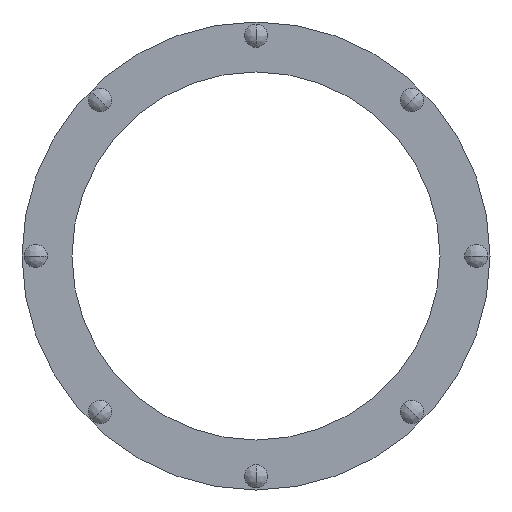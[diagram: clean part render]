
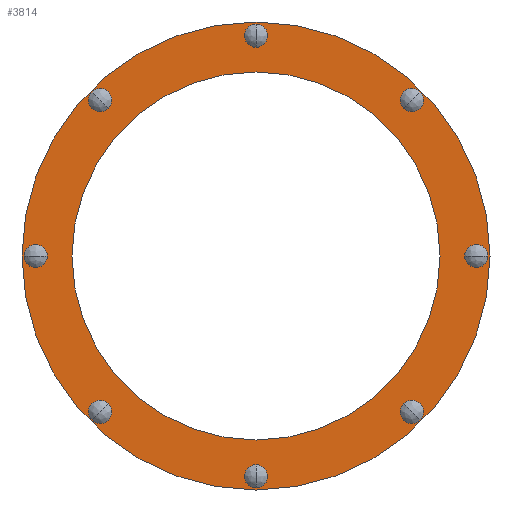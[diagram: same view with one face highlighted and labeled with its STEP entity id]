
A CAD part, front view. The second image highlights one B-rep face of the part: STEP entity #3814.
In plain terms, the highlighted planar face has unit normal (0, -1, 0).
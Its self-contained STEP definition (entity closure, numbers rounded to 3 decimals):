
#1329=CARTESIAN_POINT('',(0.,-151.,0.));
#1330=DIRECTION('',(0.,-1.,0.));
#1331=DIRECTION('',(-1.,0.,0.));
#1332=AXIS2_PLACEMENT_3D('',#1329,#1330,#1331);
#1338=CARTESIAN_POINT('',(0.,-151.,0.));
#1339=DIRECTION('',(0.,1.,0.));
#1340=DIRECTION('',(-1.,0.,0.));
#1341=AXIS2_PLACEMENT_3D('',#1338,#1339,#1340);
#1347=CARTESIAN_POINT('',(0.,-151.,0.));
#1348=DIRECTION('',(0.,-1.,0.));
#1349=DIRECTION('',(-1.,0.,0.));
#1350=AXIS2_PLACEMENT_3D('',#1347,#1348,#1349);
#1352=CARTESIAN_POINT('',(0.,-151.,0.));
#1353=DIRECTION('',(0.,1.,0.));
#1354=DIRECTION('',(-1.,0.,0.));
#1355=AXIS2_PLACEMENT_3D('',#1352,#1353,#1354);
#1357=CARTESIAN_POINT('',(-242.5,-151.,0.));
#1358=DIRECTION('',(0.,1.,0.));
#1359=DIRECTION('',(-1.,0.,0.));
#1360=AXIS2_PLACEMENT_3D('',#1357,#1358,#1359);
#1362=CARTESIAN_POINT('',(-242.5,-151.,0.));
#1363=DIRECTION('',(0.,1.,0.));
#1364=DIRECTION('',(1.,0.,0.));
#1365=AXIS2_PLACEMENT_3D('',#1362,#1363,#1364);
#1367=CARTESIAN_POINT('',(-171.473,-151.,-171.473));
#1368=DIRECTION('',(0.,1.,0.));
#1369=DIRECTION('',(-0.707,0.,-0.707));
#1370=AXIS2_PLACEMENT_3D('',#1367,#1368,#1369);
#1372=CARTESIAN_POINT('',(-171.473,-151.,-171.473));
#1373=DIRECTION('',(0.,1.,0.));
#1374=DIRECTION('',(0.707,0.,0.707));
#1375=AXIS2_PLACEMENT_3D('',#1372,#1373,#1374);
#1377=CARTESIAN_POINT('',(0.,-151.,-242.5));
#1378=DIRECTION('',(0.,1.,0.));
#1379=DIRECTION('',(0.,0.,-1.));
#1380=AXIS2_PLACEMENT_3D('',#1377,#1378,#1379);
#1382=CARTESIAN_POINT('',(0.,-151.,-242.5));
#1383=DIRECTION('',(0.,1.,0.));
#1384=DIRECTION('',(0.,0.,1.));
#1385=AXIS2_PLACEMENT_3D('',#1382,#1383,#1384);
#1387=CARTESIAN_POINT('',(171.473,-151.,-171.473));
#1388=DIRECTION('',(0.,1.,0.));
#1389=DIRECTION('',(0.707,0.,-0.707));
#1390=AXIS2_PLACEMENT_3D('',#1387,#1388,#1389);
#1392=CARTESIAN_POINT('',(171.473,-151.,-171.473));
#1393=DIRECTION('',(0.,1.,0.));
#1394=DIRECTION('',(-0.707,0.,0.707));
#1395=AXIS2_PLACEMENT_3D('',#1392,#1393,#1394);
#1397=CARTESIAN_POINT('',(242.5,-151.,0.));
#1398=DIRECTION('',(0.,1.,0.));
#1399=DIRECTION('',(1.,0.,0.));
#1400=AXIS2_PLACEMENT_3D('',#1397,#1398,#1399);
#1402=CARTESIAN_POINT('',(242.5,-151.,0.));
#1403=DIRECTION('',(0.,1.,0.));
#1404=DIRECTION('',(-1.,0.,0.));
#1405=AXIS2_PLACEMENT_3D('',#1402,#1403,#1404);
#1407=CARTESIAN_POINT('',(171.473,-151.,171.473));
#1408=DIRECTION('',(0.,1.,0.));
#1409=DIRECTION('',(0.707,0.,0.707));
#1410=AXIS2_PLACEMENT_3D('',#1407,#1408,#1409);
#1412=CARTESIAN_POINT('',(171.473,-151.,171.473));
#1413=DIRECTION('',(0.,1.,0.));
#1414=DIRECTION('',(-0.707,0.,-0.707));
#1415=AXIS2_PLACEMENT_3D('',#1412,#1413,#1414);
#1417=CARTESIAN_POINT('',(0.,-151.,242.5));
#1418=DIRECTION('',(0.,1.,0.));
#1419=DIRECTION('',(0.,0.,1.));
#1420=AXIS2_PLACEMENT_3D('',#1417,#1418,#1419);
#1422=CARTESIAN_POINT('',(0.,-151.,242.5));
#1423=DIRECTION('',(0.,1.,0.));
#1424=DIRECTION('',(0.,0.,-1.));
#1425=AXIS2_PLACEMENT_3D('',#1422,#1423,#1424);
#1427=CARTESIAN_POINT('',(-171.473,-151.,171.473));
#1428=DIRECTION('',(0.,1.,0.));
#1429=DIRECTION('',(-0.707,0.,0.707));
#1430=AXIS2_PLACEMENT_3D('',#1427,#1428,#1429);
#1432=CARTESIAN_POINT('',(-171.473,-151.,171.473));
#1433=DIRECTION('',(0.,1.,0.));
#1434=DIRECTION('',(0.707,0.,-0.707));
#1435=AXIS2_PLACEMENT_3D('',#1432,#1433,#1434);
#2627=CARTESIAN_POINT('',(-257.5,-151.,0.));
#2629=VERTEX_POINT('',#2627);
#2630=CARTESIAN_POINT('',(-202.5,-151.,0.));
#2632=VERTEX_POINT('',#2630);
#2645=CARTESIAN_POINT('',(257.5,-151.,0.));
#2647=VERTEX_POINT('',#2645);
#2648=CARTESIAN_POINT('',(202.5,-151.,0.));
#2650=VERTEX_POINT('',#2648);
#2718=CARTESIAN_POINT('',(-255.25,-151.,0.));
#2719=VERTEX_POINT('',#2718);
#2720=CARTESIAN_POINT('',(-229.75,-151.,0.));
#2721=VERTEX_POINT('',#2720);
#2760=CARTESIAN_POINT('',(-180.489,-151.,-180.489));
#2761=VERTEX_POINT('',#2760);
#2762=CARTESIAN_POINT('',(-162.458,-151.,-162.458));
#2763=VERTEX_POINT('',#2762);
#2802=CARTESIAN_POINT('',(0.,-151.,-255.25));
#2803=VERTEX_POINT('',#2802);
#2804=CARTESIAN_POINT('',(0.,-151.,-229.75));
#2805=VERTEX_POINT('',#2804);
#2844=CARTESIAN_POINT('',(180.489,-151.,-180.489));
#2845=VERTEX_POINT('',#2844);
#2846=CARTESIAN_POINT('',(162.458,-151.,-162.458));
#2847=VERTEX_POINT('',#2846);
#2886=CARTESIAN_POINT('',(255.25,-151.,0.));
#2887=VERTEX_POINT('',#2886);
#2888=CARTESIAN_POINT('',(229.75,-151.,0.));
#2889=VERTEX_POINT('',#2888);
#2928=CARTESIAN_POINT('',(180.489,-151.,180.489));
#2929=VERTEX_POINT('',#2928);
#2930=CARTESIAN_POINT('',(162.458,-151.,162.458));
#2931=VERTEX_POINT('',#2930);
#2990=CARTESIAN_POINT('',(0.,-151.,255.25));
#2991=VERTEX_POINT('',#2990);
#2992=CARTESIAN_POINT('',(0.,-151.,229.75));
#2993=VERTEX_POINT('',#2992);
#3032=CARTESIAN_POINT('',(-180.489,-151.,180.489));
#3033=VERTEX_POINT('',#3032);
#3034=CARTESIAN_POINT('',(-162.458,-151.,162.458));
#3035=VERTEX_POINT('',#3034);
#3751=CARTESIAN_POINT('',(0.,-151.,0.));
#3752=DIRECTION('',(0.,-1.,0.));
#3753=DIRECTION('',(-1.,0.,0.));
#3754=AXIS2_PLACEMENT_3D('',#3751,#3752,#3753);
#3755=PLANE('',#3754);
#3757=ORIENTED_EDGE('',*,*,#3756,.F.);
#3759=ORIENTED_EDGE('',*,*,#3758,.T.);
#3760=EDGE_LOOP('',(#3757,#3759));
#3761=FACE_OUTER_BOUND('',#3760,.F.);
#3762=ORIENTED_EDGE('',*,*,#3744,.F.);
#3763=ORIENTED_EDGE('',*,*,#3733,.T.);
#3764=EDGE_LOOP('',(#3762,#3763));
#3765=FACE_BOUND('',#3764,.F.);
#3767=ORIENTED_EDGE('',*,*,#3766,.F.);
#3769=ORIENTED_EDGE('',*,*,#3768,.F.);
#3770=EDGE_LOOP('',(#3767,#3769));
#3771=FACE_BOUND('',#3770,.F.);
#3773=ORIENTED_EDGE('',*,*,#3772,.F.);
#3775=ORIENTED_EDGE('',*,*,#3774,.F.);
#3776=EDGE_LOOP('',(#3773,#3775));
#3777=FACE_BOUND('',#3776,.F.);
#3779=ORIENTED_EDGE('',*,*,#3778,.F.);
#3781=ORIENTED_EDGE('',*,*,#3780,.F.);
#3782=EDGE_LOOP('',(#3779,#3781));
#3783=FACE_BOUND('',#3782,.F.);
#3785=ORIENTED_EDGE('',*,*,#3784,.F.);
#3787=ORIENTED_EDGE('',*,*,#3786,.F.);
#3788=EDGE_LOOP('',(#3785,#3787));
#3789=FACE_BOUND('',#3788,.F.);
#3791=ORIENTED_EDGE('',*,*,#3790,.F.);
#3793=ORIENTED_EDGE('',*,*,#3792,.F.);
#3794=EDGE_LOOP('',(#3791,#3793));
#3795=FACE_BOUND('',#3794,.F.);
#3797=ORIENTED_EDGE('',*,*,#3796,.F.);
#3799=ORIENTED_EDGE('',*,*,#3798,.F.);
#3800=EDGE_LOOP('',(#3797,#3799));
#3801=FACE_BOUND('',#3800,.F.);
#3803=ORIENTED_EDGE('',*,*,#3802,.F.);
#3805=ORIENTED_EDGE('',*,*,#3804,.F.);
#3806=EDGE_LOOP('',(#3803,#3805));
#3807=FACE_BOUND('',#3806,.F.);
#3809=ORIENTED_EDGE('',*,*,#3808,.F.);
#3811=ORIENTED_EDGE('',*,*,#3810,.F.);
#3812=EDGE_LOOP('',(#3809,#3811));
#3813=FACE_BOUND('',#3812,.F.);
#3814=ADVANCED_FACE('',(#3761,#3765,#3771,#3777,#3783,#3789,#3795,#3801,#3807,
#3813),#3755,.T.);
#1333=CIRCLE('',#1332,202.5);
#1342=CIRCLE('',#1341,202.5);
#1351=CIRCLE('',#1350,257.5);
#1356=CIRCLE('',#1355,257.5);
#1361=CIRCLE('',#1360,12.75);
#1366=CIRCLE('',#1365,12.75);
#1371=CIRCLE('',#1370,12.75);
#1376=CIRCLE('',#1375,12.75);
#1381=CIRCLE('',#1380,12.75);
#1386=CIRCLE('',#1385,12.75);
#1391=CIRCLE('',#1390,12.75);
#1396=CIRCLE('',#1395,12.75);
#1401=CIRCLE('',#1400,12.75);
#1406=CIRCLE('',#1405,12.75);
#1411=CIRCLE('',#1410,12.75);
#1416=CIRCLE('',#1415,12.75);
#1421=CIRCLE('',#1420,12.75);
#1426=CIRCLE('',#1425,12.75);
#1431=CIRCLE('',#1430,12.75);
#1436=CIRCLE('',#1435,12.75);
#3733=EDGE_CURVE('',#2632,#2650,#1333,.T.);
#3744=EDGE_CURVE('',#2632,#2650,#1342,.T.);
#3756=EDGE_CURVE('',#2629,#2647,#1351,.T.);
#3758=EDGE_CURVE('',#2629,#2647,#1356,.T.);
#3766=EDGE_CURVE('',#2719,#2721,#1361,.T.);
#3768=EDGE_CURVE('',#2721,#2719,#1366,.T.);
#3772=EDGE_CURVE('',#2761,#2763,#1371,.T.);
#3774=EDGE_CURVE('',#2763,#2761,#1376,.T.);
#3778=EDGE_CURVE('',#2803,#2805,#1381,.T.);
#3780=EDGE_CURVE('',#2805,#2803,#1386,.T.);
#3784=EDGE_CURVE('',#2845,#2847,#1391,.T.);
#3786=EDGE_CURVE('',#2847,#2845,#1396,.T.);
#3790=EDGE_CURVE('',#2887,#2889,#1401,.T.);
#3792=EDGE_CURVE('',#2889,#2887,#1406,.T.);
#3796=EDGE_CURVE('',#2929,#2931,#1411,.T.);
#3798=EDGE_CURVE('',#2931,#2929,#1416,.T.);
#3802=EDGE_CURVE('',#2991,#2993,#1421,.T.);
#3804=EDGE_CURVE('',#2993,#2991,#1426,.T.);
#3808=EDGE_CURVE('',#3033,#3035,#1431,.T.);
#3810=EDGE_CURVE('',#3035,#3033,#1436,.T.);
